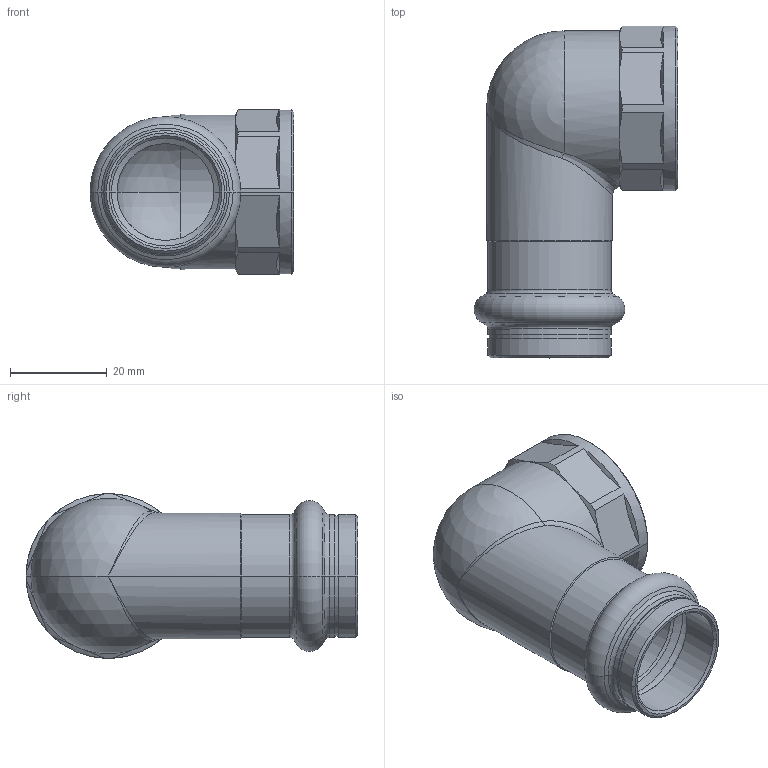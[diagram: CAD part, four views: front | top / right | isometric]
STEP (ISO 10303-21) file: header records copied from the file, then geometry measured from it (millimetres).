
FILE_DESCRIPTION (( 'STEP AP203' ), '1' );
FILE_NAME ('SP4090G Ø22 3-4.STEP', '2017-04-28T08:55:14', ( '' ), ( '' ), 'SwSTEP 2.0', 'SolidWorks 2016', '' );
FILE_SCHEMA (( 'CONFIG_CONTROL_DESIGN' ));
Length unit declared in the file: millimetre
Products named in the file (1): SP4090G Ø22 3-4
Bounding box: 42.05 x 68.5 x 34 mm (x, y, z)
Volume: 17084.2 mm3; surface area: 13486.8 mm2
Topology: 1 solids, 1 shells, 96 faces, 224 edges, 127 vertices
Faces by surface type: cone 41, cylinder 25, plane 13, torus 8, bspline 5, sphere 4
Entity records: 3735 total; most frequent: CARTESIAN_POINT 1537, DIRECTION 471, ORIENTED_EDGE 432, EDGE_CURVE 216, AXIS2_PLACEMENT_3D 203, VERTEX_POINT 125, CIRCLE 111, EDGE_LOOP 101
